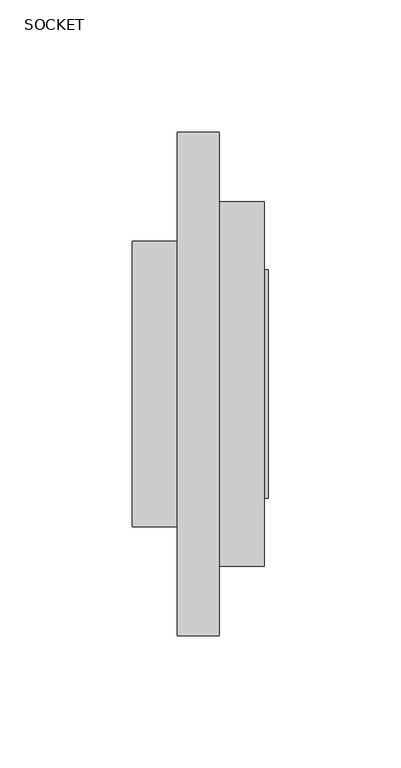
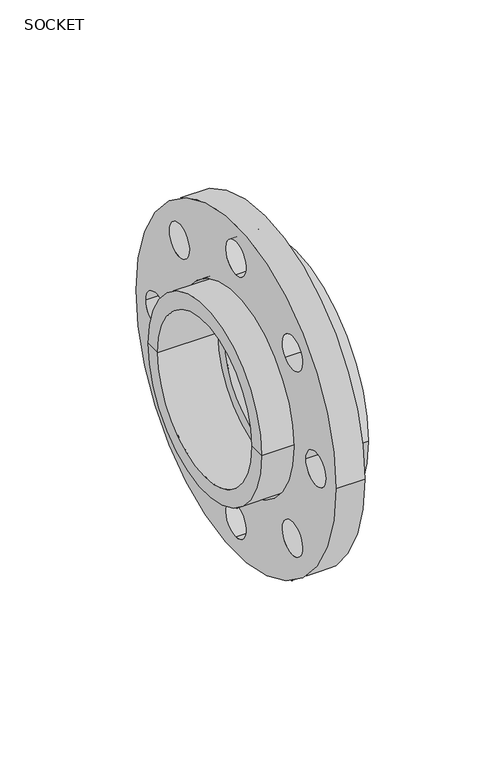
"""IFC4 building model written with IfcOpenShell, lengths in millimetres: valve geometry, Aquatherm - Flange Adapter Socket : SOCKET."""

import ifcopenshell
import ifcopenshell.guid

model = None  # the IFC model being written
_history = None  # IfcOwnerHistory: only IFC2X3 demands one
_inside = {}  # id of a spatial element -> (the spatial element, [elements in it])
_under = {}  # id of a project, library or spatial element -> (it, [spatial elements below it])
_declared = {}  # id of a project -> (the project, [libraries it declares])
_typed = {}  # id of a type object -> (the type object, [elements of that type])
_made_of = {}  # id of a material, layer set ... -> (it, [elements and type objects made of it])


def new_model(schema):
    """Start an empty IFC model of exactly this schema.

    Asked for "IFC4X3", IfcOpenShell would pick the latest addendum, in which some entities
    have other attributes; the version numbers below select the first issue.
    IFC2X3 requires an IfcOwnerHistory on every rooted entity: one is made here for all.
    """
    global model, _history
    if schema == "IFC4X3":
        model = ifcopenshell.file(schema_version=(4, 3, 0, 0))
    else:
        model = ifcopenshell.file(schema=schema)
    _inside.clear()
    _under.clear()
    _declared.clear()
    _typed.clear()
    _made_of.clear()
    _history = None
    if model.schema == "IFC2X3":
        org = make("IfcOrganization", Name="unknown")
        user = make(
            "IfcPersonAndOrganization",
            ThePerson=make("IfcPerson", FamilyName="unknown"),
            TheOrganization=org,
        )
        app = make(
            "IfcApplication",
            ApplicationDeveloper=org,
            Version="unknown",
            ApplicationFullName="unknown",
            ApplicationIdentifier="unknown",
        )
        _history = make(
            "IfcOwnerHistory",
            OwningUser=user,
            OwningApplication=app,
            ChangeAction="ADDED",
            CreationDate=0,
        )
    return model


def make(cls, **values):
    """One entity of the class cls with the attributes given. An attribute that is None is left unset."""
    return model.create_entity(
        cls, **{name: value for name, value in values.items() if value is not None}
    )


def rooted(cls, **values):
    """An entity with a GlobalId (a new one), such as an element, a storey or a relation."""
    return make(cls, GlobalId=ifcopenshell.guid.new(), OwnerHistory=_history, **values)


def si_unit(unit_type, name, prefix=None):
    """IfcSIUnit, for example si_unit("LENGTHUNIT", "METRE", prefix="MILLI")."""
    return make("IfcSIUnit", UnitType=unit_type, Prefix=prefix, Name=name)


def assignment(units):
    """IfcUnitAssignment: the units of a project."""
    return None if units is None else make("IfcUnitAssignment", Units=units)


def point(xyz):
    """IfcCartesianPoint."""
    return None if xyz is None else make("IfcCartesianPoint", Coordinates=xyz)


def direction(xyz):
    """IfcDirection."""
    return None if xyz is None else make("IfcDirection", DirectionRatios=xyz)


def frame(location, z_axis=None, x_axis=None):
    """IfcAxis2Placement3D, a coordinate frame: its origin and axes. An axis left out is left unset."""
    return make(
        "IfcAxis2Placement3D",
        Location=point(location),
        Axis=direction(z_axis),
        RefDirection=direction(x_axis),
    )


def frame_2d(location, x_axis=None):
    """IfcAxis2Placement2D, a coordinate frame in the plane: its origin and x axis."""
    return make(
        "IfcAxis2Placement2D", Location=point(location), RefDirection=direction(x_axis)
    )


def origin():
    """The frame at (0, 0, 0) with its axes left unset."""
    return frame((0.0, 0.0, 0.0))


def origin_2d():
    """The frame at (0, 0) in the plane with its x axis left unset."""
    return frame_2d((0.0, 0.0))


def place(relative_to, where):
    """IfcLocalPlacement: puts the frame where relative to a parent placement (None: the world)."""
    return make(
        "IfcLocalPlacement", PlacementRelTo=relative_to, RelativePlacement=where
    )


def context(
    kind, dimensions, precision=None, world=None, true_north=None, identifier=None
):
    """IfcGeometricRepresentationContext, for example the 3D "Model" context."""
    return make(
        "IfcGeometricRepresentationContext",
        ContextIdentifier=identifier,
        ContextType=kind,
        CoordinateSpaceDimension=dimensions,
        Precision=precision,
        WorldCoordinateSystem=world,
        TrueNorth=true_north,
    )


def project(units=None, contexts=None):
    """IfcProject with its units and contexts."""
    return rooted(
        "IfcProject",
        Name="project",
        RepresentationContexts=contexts,
        UnitsInContext=assignment(units),
    )


def spatial(cls, under=None, at=None, **own):
    """A site, building, storey or space (cls), placed at a placement, below another one or the project."""
    s = rooted(cls, ObjectPlacement=at, **own)
    if under is not None:
        _under.setdefault(under.id(), (under, []))[1].append(s)
    return s


def polyline(points):
    """IfcPolyline through the points."""
    return make("IfcPolyline", Points=[point(p) for p in points])


def circle_curve(where, radius):
    """IfcCircle in the frame where."""
    return make("IfcCircle", Position=where, Radius=radius)


def trimmed(basis, trim1, trim2, sense, master):
    """IfcTrimmedCurve: the piece of a basis curve between two trims."""
    return make(
        "IfcTrimmedCurve",
        BasisCurve=basis,
        Trim1=trim1,
        Trim2=trim2,
        SenseAgreement=sense,
        MasterRepresentation=master,
    )


def segment(curve, same_sense, transition):
    """IfcCompositeCurveSegment."""
    return make(
        "IfcCompositeCurveSegment",
        Transition=transition,
        SameSense=same_sense,
        ParentCurve=curve,
    )


def composite_curve(segments, self_intersect=None):
    """IfcCompositeCurve: segments joined end to end."""
    return make("IfcCompositeCurve", Segments=segments, SelfIntersect=self_intersect)


def outline(outer, holes=None, kind="AREA"):
    """IfcArbitraryClosedProfileDef: a profile drawn as a closed curve; with holes, ...WithVoids."""
    if holes is None:
        return make("IfcArbitraryClosedProfileDef", ProfileType=kind, OuterCurve=outer)
    return make(
        "IfcArbitraryProfileDefWithVoids",
        ProfileType=kind,
        OuterCurve=outer,
        InnerCurves=holes,
    )


def extrude(swept, where, along, depth):
    """IfcExtrudedAreaSolid: the profile swept, set in the frame where, extruded along a direction by depth."""
    return make(
        "IfcExtrudedAreaSolid",
        SweptArea=swept,
        Position=where,
        ExtrudedDirection=direction(along),
        Depth=depth,
    )


def shape(context_of_items, identifier, shape_type, items):
    """IfcShapeRepresentation: the items that make up one representation, for example the "Body"."""
    return make(
        "IfcShapeRepresentation",
        ContextOfItems=context_of_items,
        RepresentationIdentifier=identifier,
        RepresentationType=shape_type,
        Items=items,
    )


def source(mapping_origin, context_of_items, identifier, shape_type, items):
    """IfcRepresentationMap: a shape defined once, which mapped items show again and again."""
    return make(
        "IfcRepresentationMap",
        MappingOrigin=mapping_origin,
        MappedRepresentation=shape(context_of_items, identifier, shape_type, items),
    )


def transform(
    local_origin,
    x_axis=None,
    y_axis=None,
    z_axis=None,
    scale=None,
    scale2=None,
    scale3=None,
    uniform=True,
):
    """IfcCartesianTransformationOperator3D, or its non-uniform kind. x_axis, y_axis, z_axis: its Axis1, 2, 3."""
    if uniform:
        return make(
            "IfcCartesianTransformationOperator3D",
            Axis1=direction(x_axis),
            Axis2=direction(y_axis),
            LocalOrigin=point(local_origin),
            Scale=scale,
            Axis3=direction(z_axis),
        )
    return make(
        "IfcCartesianTransformationOperator3DnonUniform",
        Axis1=direction(x_axis),
        Axis2=direction(y_axis),
        LocalOrigin=point(local_origin),
        Scale=scale,
        Axis3=direction(z_axis),
        Scale2=scale2,
        Scale3=scale3,
    )


def mapped(mapping_source, mapping_target):
    """IfcMappedItem: shows the shape of a source again, moved by a transform."""
    return make(
        "IfcMappedItem", MappingSource=mapping_source, MappingTarget=mapping_target
    )


def made_of(thing, what):
    """Note that an element or type object is made of a material, layer set ...; save() writes the relation."""
    if what is not None:
        _made_of.setdefault(what.id(), (what, []))[1].append(thing)
    return thing


def element(
    cls,
    number,
    at=None,
    inside=None,
    cuts=None,
    type_object=None,
    material=None,
    context=None,
    identifier="Body",
    shape_type=None,
    held_by="IfcProductDefinitionShape",
    body=None,
    shapes=None,
    **own,
):
    """One element of the class cls, such as IfcWall. Its Tag is "e" and its number.

    at: its placement. inside: the storey or other place that contains it. cuts: it is an
    opening in that element (IfcRelVoidsElement). A single representation is given by context,
    identifier, shape_type and body (its items); several are given by shapes. held_by: the class
    of the entity that holds the representations. save() writes the other relations.
    """
    e = rooted(cls, Tag="e%d" % number, ObjectPlacement=at, **own)
    if body is not None:
        shapes = [shape(context, identifier, shape_type, body)]
    if shapes is not None:
        e.Representation = make(held_by, Representations=shapes)
    if inside is not None:
        _inside.setdefault(inside.id(), (inside, []))[1].append(e)
    if cuts is not None:
        rooted(
            "IfcRelVoidsElement", RelatingBuildingElement=cuts, RelatedOpeningElement=e
        )
    if type_object is not None:
        _typed.setdefault(type_object.id(), (type_object, []))[1].append(e)
    return made_of(e, material)


def aggregate(whole, parts):
    """IfcRelAggregates: a whole, such as a stair, and the parts it consists of."""
    return rooted("IfcRelAggregates", RelatingObject=whole, RelatedObjects=parts)


def save(model, path):
    """Write the relations noted so far, then the file.

    IfcRelAggregates (storeys below a building ...), IfcRelContainedInSpatialStructure (elements
    in a storey), IfcRelDefinesByType, IfcRelAssociatesMaterial and IfcRelDeclares: one each for
    every whole, place, type object, material and project.
    """
    for whole, parts in _under.values():
        aggregate(whole, parts)
    for where, things in _inside.values():
        rooted(
            "IfcRelContainedInSpatialStructure",
            RelatedElements=things,
            RelatingStructure=where,
        )
    for kind, things in _typed.values():
        rooted("IfcRelDefinesByType", RelatedObjects=things, RelatingType=kind)
    for what, things in _made_of.values():
        rooted("IfcRelAssociatesMaterial", RelatedObjects=things, RelatingMaterial=what)
    for by, libraries in _declared.values():
        rooted("IfcRelDeclares", RelatingContext=by, RelatedDefinitions=libraries)
    model.write(path)


def plane_surface(at):
    """IfcPlane: the flat surface through the origin of the frame at, square to its z axis."""
    return make("IfcPlane", Position=at)


def cylinder_surface(at, radius):
    """IfcCylindricalSurface: all points at the distance radius from the z axis of the frame at."""
    return make("IfcCylindricalSurface", Position=at, Radius=radius)


def revolved_surface(curve, axis_point, axis_direction):
    """IfcSurfaceOfRevolution: the curve turned about the line through axis_point along axis_direction."""
    return make(
        "IfcSurfaceOfRevolution",
        SweptCurve=make("IfcArbitraryOpenProfileDef", ProfileType="CURVE", Curve=curve),
        AxisPosition=make("IfcAxis1Placement", Location=point(axis_point), Axis=direction(axis_direction)),
    )


def advanced_brep(points, edges, surfaces, faces):
    """IfcAdvancedBrep: a solid bounded by faces that lie on surfaces and meet in shared edges.

    An edge is (start, end): straight between two places in points (the first is 0);
    or (start, end, curve); or (start, end, curve, False) where it runs against its curve.
    A face is (place in surfaces, loops), or (place, loops, False) where it looks against
    its surface's normal. A loop lists edges by number (the first is 1), with a minus sign
    where the edge is run from its end to its start. The first loop is the outer one.
    """
    corners = [point(p) for p in points]
    vertices = [make("IfcVertexPoint", VertexGeometry=c) for c in corners]
    made = []
    for start, end, *more in edges:
        made.append(
            make(
                "IfcEdgeCurve",
                EdgeStart=vertices[start],
                EdgeEnd=vertices[end],
                EdgeGeometry=more[0] if more else make("IfcPolyline", Points=[corners[start], corners[end]]),
                SameSense=more[1] if len(more) > 1 else True,
            )
        )
    hull = []
    for where, loops, *sense in faces:
        bounds = []
        for j, loop in enumerate(loops):
            ring = [make("IfcOrientedEdge", EdgeElement=made[abs(k) - 1], Orientation=k > 0) for k in loop]
            bounds.append(
                make(
                    "IfcFaceOuterBound" if j == 0 else "IfcFaceBound",
                    Bound=make("IfcEdgeLoop", EdgeList=ring),
                    Orientation=True,
                )
            )
        hull.append(make("IfcAdvancedFace", Bounds=bounds, FaceSurface=surfaces[where], SameSense=sense[0] if sense else True))
    return make("IfcAdvancedBrep", Outer=make("IfcClosedShell", CfsFaces=hull))


def socket_262bcbeb(model_context):
    return source(origin(), model_context, "Body", "SolidModel", [
        extrude(outline(composite_curve([segment(trimmed(circle_curve(origin_2d(), 95.25), [point((95.25, 0.0))], [point((-95.25, 0.0))], False, "CARTESIAN"), True, "CONTINUOUS"), segment(trimmed(circle_curve(origin_2d(), 95.25), [point((-95.25, 0.0))], [point((95.25, 0.0))], False, "CARTESIAN"), True, "CONTINUOUS")], self_intersect=False), holes=[composite_curve([segment(trimmed(circle_curve(origin_2d(), 55.118), [point((55.118, 0.0))], [point((-55.118, 0.0))], True, "CARTESIAN"), True, "CONTINUOUS"), segment(trimmed(circle_curve(origin_2d(), 55.118), [point((-55.118, 0.0))], [point((55.118, 0.0))], True, "CARTESIAN"), True, "CONTINUOUS")], self_intersect=False), composite_curve([segment(trimmed(circle_curve(frame_2d((-76.2, 0.0)), 9.525), [point((-66.675, 0.0))], [point((-85.725, 0.0))], True, "CARTESIAN"), True, "CONTINUOUS"), segment(trimmed(circle_curve(frame_2d((-76.2, 0.0)), 9.525), [point((-85.725, 0.0))], [point((-66.675, 0.0))], True, "CARTESIAN"), True, "CONTINUOUS")], self_intersect=False), composite_curve([segment(trimmed(circle_curve(frame_2d((-53.8815367, -53.8815367)), 9.525), [point((-47.1463446, -47.1463446))], [point((-60.6167288, -60.6167288))], True, "CARTESIAN"), True, "CONTINUOUS"), segment(trimmed(circle_curve(frame_2d((-53.8815367, -53.8815367)), 9.525), [point((-60.6167288, -60.6167288))], [point((-47.1463446, -47.1463446))], True, "CARTESIAN"), True, "CONTINUOUS")], self_intersect=False), composite_curve([segment(trimmed(circle_curve(frame_2d((-53.8815367, 53.8815367)), 9.525), [point((-47.1463446, 47.1463446))], [point((-60.6167288, 60.6167288))], True, "CARTESIAN"), True, "CONTINUOUS"), segment(trimmed(circle_curve(frame_2d((-53.8815367, 53.8815367)), 9.525), [point((-60.6167288, 60.6167288))], [point((-47.1463446, 47.1463446))], True, "CARTESIAN"), True, "CONTINUOUS")], self_intersect=False), composite_curve([segment(trimmed(circle_curve(frame_2d((0.0, 76.2)), 9.525), [point((0.0, 66.675))], [point((0.0, 85.725))], True, "CARTESIAN"), True, "CONTINUOUS"), segment(trimmed(circle_curve(frame_2d((0.0, 76.2)), 9.525), [point((0.0, 85.725))], [point((0.0, 66.675))], True, "CARTESIAN"), True, "CONTINUOUS")], self_intersect=False), composite_curve([segment(trimmed(circle_curve(frame_2d((53.8815367, 53.8815367)), 9.525), [point((47.1463446, 47.1463446))], [point((60.6167288, 60.6167288))], True, "CARTESIAN"), True, "CONTINUOUS"), segment(trimmed(circle_curve(frame_2d((53.8815367, 53.8815367)), 9.525), [point((60.6167288, 60.6167288))], [point((47.1463446, 47.1463446))], True, "CARTESIAN"), True, "CONTINUOUS")], self_intersect=False), composite_curve([segment(trimmed(circle_curve(frame_2d((76.2, 0.0)), 9.525), [point((66.675, 0.0))], [point((85.725, 0.0))], True, "CARTESIAN"), True, "CONTINUOUS"), segment(trimmed(circle_curve(frame_2d((76.2, 0.0)), 9.525), [point((85.725, 0.0))], [point((66.675, 0.0))], True, "CARTESIAN"), True, "CONTINUOUS")], self_intersect=False), composite_curve([segment(trimmed(circle_curve(frame_2d((53.8815367, -53.8815367)), 9.525), [point((47.1463446, -47.1463446))], [point((60.6167288, -60.6167288))], True, "CARTESIAN"), True, "CONTINUOUS"), segment(trimmed(circle_curve(frame_2d((53.8815367, -53.8815367)), 9.525), [point((60.6167288, -60.6167288))], [point((47.1463446, -47.1463446))], True, "CARTESIAN"), True, "CONTINUOUS")], self_intersect=False), composite_curve([segment(trimmed(circle_curve(frame_2d((0.0, -76.2)), 9.525), [point((0.0, -66.675))], [point((0.0, -85.725))], True, "CARTESIAN"), True, "CONTINUOUS"), segment(trimmed(circle_curve(frame_2d((0.0, -76.2)), 9.525), [point((0.0, -85.725))], [point((0.0, -66.675))], True, "CARTESIAN"), True, "CONTINUOUS")], self_intersect=False)]), frame((-16.002, 0.0, 0.0), z_axis=(1.0, 0.0, 0.0), x_axis=(0.0, 1.0, 0.0)), (0.0, 0.0, 1.0), 16.002),
        advanced_brep(
        [(18.542, -38.1, 0.0), (18.542, -43.18, 0.0), (18.542, 43.18, 0.0), (18.542, 38.1, 0.0), (0.0, -38.1, 0.0), (0.0, 38.1, 0.0), (0.0, -44.958, 0.0), (0.0, 44.958, 0.0), (-33.02, -44.958, 0.0), (-33.02, 44.958, 0.0), (-33.02, -53.975, 0.0), (-33.02, 53.975, 0.0), (0.0, -53.975, 0.0), (0.0, 53.975, 0.0), (0.0, -68.961, 0.0), (0.0, 68.961, 0.0), (17.018, -68.961, 0.0), (17.018, 68.961, 0.0), (17.018, -43.18, 0.0), (17.018, 43.18, 0.0)],
        [
            (0, 1),
            (1, 2, circle_curve(frame((18.542, 0.0, 0.0), z_axis=(1.0, 0.0, 0.0), x_axis=(0.0, 1.0, 0.0)), 43.18)),
            (2, 3),
            (3, 0, circle_curve(frame((18.542, 0.0, 0.0), z_axis=(-1.0, 0.0, 0.0), x_axis=(0.0, 1.0, 0.0)), 38.1)),
            (2, 1, circle_curve(frame((18.542, 0.0, 0.0), z_axis=(1.0, 0.0, 0.0), x_axis=(0.0, 1.0, 0.0)), 43.18)),
            (0, 3, circle_curve(frame((18.542, 0.0, 0.0), z_axis=(-1.0, 0.0, 0.0), x_axis=(0.0, 1.0, 0.0)), 38.1)),
            (4, 0),
            (3, 5),
            (5, 4, circle_curve(frame((0.0, 0.0, 0.0), z_axis=(-1.0, 0.0, 0.0), x_axis=(0.0, 1.0, 0.0)), 38.1)),
            (4, 5, circle_curve(frame((0.0, 0.0, 0.0), z_axis=(-1.0, 0.0, 0.0), x_axis=(0.0, 1.0, 0.0)), 38.1)),
            (6, 4),
            (5, 7),
            (7, 6, circle_curve(frame((0.0, 0.0, 0.0), z_axis=(-1.0, 0.0, 0.0), x_axis=(0.0, 1.0, 0.0)), 44.958)),
            (6, 7, circle_curve(frame((0.0, 0.0, 0.0), z_axis=(-1.0, 0.0, 0.0), x_axis=(0.0, 1.0, 0.0)), 44.958)),
            (8, 6),
            (7, 9),
            (9, 8, circle_curve(frame((-33.02, 0.0, 0.0), z_axis=(-1.0, 0.0, 0.0), x_axis=(0.0, 1.0, 0.0)), 44.958)),
            (8, 9, circle_curve(frame((-33.02, 0.0, 0.0), z_axis=(-1.0, 0.0, 0.0), x_axis=(0.0, 1.0, 0.0)), 44.958)),
            (10, 8),
            (9, 11),
            (11, 10, circle_curve(frame((-33.02, 0.0, 0.0), z_axis=(-1.0, 0.0, 0.0), x_axis=(0.0, 1.0, 0.0)), 53.975)),
            (10, 11, circle_curve(frame((-33.02, 0.0, 0.0), z_axis=(-1.0, 0.0, 0.0), x_axis=(0.0, 1.0, 0.0)), 53.975)),
            (12, 10),
            (11, 13),
            (13, 12, circle_curve(frame((0.0, 0.0, 0.0), z_axis=(-1.0, 0.0, 0.0), x_axis=(0.0, 1.0, 0.0)), 53.975)),
            (12, 13, circle_curve(frame((0.0, 0.0, 0.0), z_axis=(-1.0, 0.0, 0.0), x_axis=(0.0, 1.0, 0.0)), 53.975)),
            (14, 12),
            (13, 15),
            (15, 14, circle_curve(frame((0.0, 0.0, 0.0), z_axis=(-1.0, 0.0, 0.0), x_axis=(0.0, 1.0, 0.0)), 68.961)),
            (14, 15, circle_curve(frame((0.0, 0.0, 0.0), z_axis=(-1.0, 0.0, 0.0), x_axis=(0.0, 1.0, 0.0)), 68.961)),
            (16, 14),
            (15, 17),
            (17, 16, circle_curve(frame((17.018, 0.0, 0.0), z_axis=(-1.0, 0.0, 0.0), x_axis=(0.0, 1.0, 0.0)), 68.961)),
            (16, 17, circle_curve(frame((17.018, 0.0, 0.0), z_axis=(-1.0, 0.0, 0.0), x_axis=(0.0, 1.0, 0.0)), 68.961)),
            (18, 16),
            (17, 19),
            (19, 18, circle_curve(frame((17.018, 0.0, 0.0), z_axis=(-1.0, 0.0, 0.0), x_axis=(0.0, 1.0, 0.0)), 43.18)),
            (18, 19, circle_curve(frame((17.018, 0.0, 0.0), z_axis=(-1.0, 0.0, 0.0), x_axis=(0.0, 1.0, 0.0)), 43.18)),
            (1, 18),
            (19, 2),
        ],
        [
            plane_surface(frame((18.542, 0.0, 0.0), z_axis=(1.0, 0.0, 0.0), x_axis=(0.0, 1.0, 0.0))),
            revolved_surface(polyline([(18.541999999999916, 38.1, 0.0), (0.0, 38.1, 0.0)]), (1447.8371939, 0.0, 0.0), (1.0, 0.0, 0.0)),
            plane_surface(frame((0.0, 0.0, 0.0), z_axis=(-1.0, 0.0, 0.0), x_axis=(0.0, 1.0, 0.0))),
            revolved_surface(polyline([(0.0, 44.958, 0.0), (-33.01999999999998, 44.958, 0.0)]), (1447.8371939, 0.0, 0.0), (1.0, 0.0, 0.0)),
            plane_surface(frame((-33.02, 0.0, 0.0), z_axis=(-1.0, 0.0, 0.0), x_axis=(0.0, 1.0, 0.0))),
            cylinder_surface(frame((1447.8371939, 0.0, 0.0), z_axis=(1.0, 0.0, 0.0), x_axis=(0.0, 1.0, 0.0)), 53.975),
            cylinder_surface(frame((1447.8371939, 0.0, 0.0), z_axis=(1.0, 0.0, 0.0), x_axis=(0.0, 1.0, 0.0)), 68.961),
            plane_surface(frame((17.018, 0.0, 0.0), z_axis=(1.0, 0.0, 0.0), x_axis=(0.0, 1.0, 0.0))),
            cylinder_surface(frame((1447.8371939, 0.0, 0.0), z_axis=(1.0, 0.0, 0.0), x_axis=(0.0, 1.0, 0.0)), 43.18),
        ],
        [
            (0, [[1, 2, 3, 4]]),
            (0, [[-3, 5, -1, 6]]),
            (1, [[7, -4, 8, 9]]),
            (1, [[-8, -6, -7, 10]]),
            (2, [[11, -9, 12, 13]]),
            (2, [[-12, -10, -11, 14]]),
            (3, [[15, -13, 16, 17]]),
            (3, [[-16, -14, -15, 18]]),
            (4, [[19, -17, 20, 21]]),
            (4, [[-20, -18, -19, 22]]),
            (5, [[23, -21, 24, 25]]),
            (5, [[-24, -22, -23, 26]]),
            (2, [[27, -25, 28, 29]]),
            (2, [[-28, -26, -27, 30]]),
            (6, [[31, -29, 32, 33]]),
            (6, [[-32, -30, -31, 34]]),
            (7, [[35, -33, 36, 37]]),
            (7, [[-36, -34, -35, 38]]),
            (8, [[39, -37, 40, -2]]),
            (8, [[-40, -38, -39, -5]]),
        ],
    ),
    ])


if __name__ == "__main__":
    model = new_model("IFC4")
    model_context = context("Model", 3, world=origin())
    ifc_project = project(units=[si_unit("LENGTHUNIT", "METRE", prefix="MILLI")], contexts=[model_context])
    site = spatial("IfcSite", under=ifc_project)
    building = spatial("IfcBuilding", under=site)
    placement = place(None, origin())
    ifc_socket_shape = socket_262bcbeb(model_context)
    element("IfcValve", 1, ObjectType="Aquatherm - Flange Adapter Socket : SOCKET", at=placement, inside=building, context=model_context, shape_type="MappedRepresentation", body=[
        mapped(ifc_socket_shape, transform((0.0, 0.0, 0.0), x_axis=(1.0, 0.0, 0.0), y_axis=(0.0, 1.0, 0.0), z_axis=(0.0, 0.0, 1.0))),
    ])
    save(model, "model.ifc")
